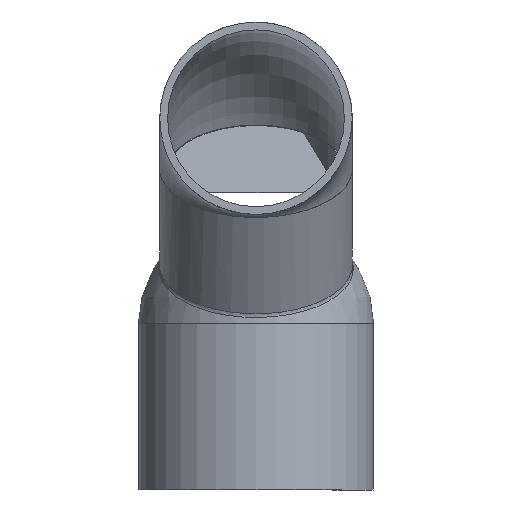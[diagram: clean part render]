
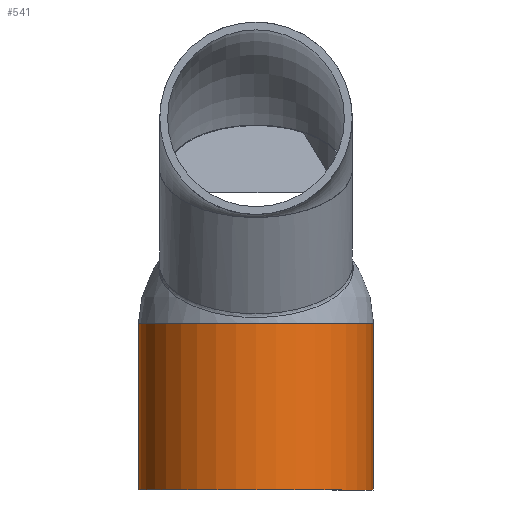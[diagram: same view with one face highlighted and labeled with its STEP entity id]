
A CAD part, front view. The second image highlights one B-rep face of the part: STEP entity #541.
In plain terms, the highlighted cylindrical face has radius 55 mm (diameter 110 mm), a full revolution.
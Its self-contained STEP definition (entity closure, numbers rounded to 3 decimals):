
#71=FACE_BOUND('',#174,.T.);
#116=FACE_OUTER_BOUND('',#173,.T.);
#173=EDGE_LOOP('',(#453));
#174=EDGE_LOOP('',(#454));
#205=CIRCLE('',#622,55.);
#206=CIRCLE('',#630,55.);
#269=VERTEX_POINT('',#2142);
#270=VERTEX_POINT('',#2151);
#331=EDGE_CURVE('',#269,#269,#205,.T.);
#332=EDGE_CURVE('',#270,#270,#206,.T.);
#453=ORIENTED_EDGE('',*,*,#331,.F.);
#454=ORIENTED_EDGE('',*,*,#332,.T.);
#467=CYLINDRICAL_SURFACE('',#632,55.);
#541=ADVANCED_FACE('',(#116,#71),#467,.T.);
#622=AXIS2_PLACEMENT_3D('',#2143,#758,#759);
#630=AXIS2_PLACEMENT_3D('',#2152,#774,#775);
#632=AXIS2_PLACEMENT_3D('',#2155,#778,#779);
#758=DIRECTION('center_axis',(0.,0.,
1.));
#759=DIRECTION('ref_axis',(0.,-1.,0.));
#774=DIRECTION('center_axis',(0.,0.,
1.));
#775=DIRECTION('ref_axis',(0.,1.,0.));
#778=DIRECTION('center_axis',(0.,0.,
1.));
#779=DIRECTION('ref_axis',(0.,-1.,0.));
#2142=CARTESIAN_POINT('',(0.,-55.,78.));
#2143=CARTESIAN_POINT('Origin',(0.,0.,
78.));
#2151=CARTESIAN_POINT('',(0.,-55.,0.));
#2152=CARTESIAN_POINT('Origin',(0.,0.,0.));
#2155=CARTESIAN_POINT('Origin',(0.,0.,
1500.));
